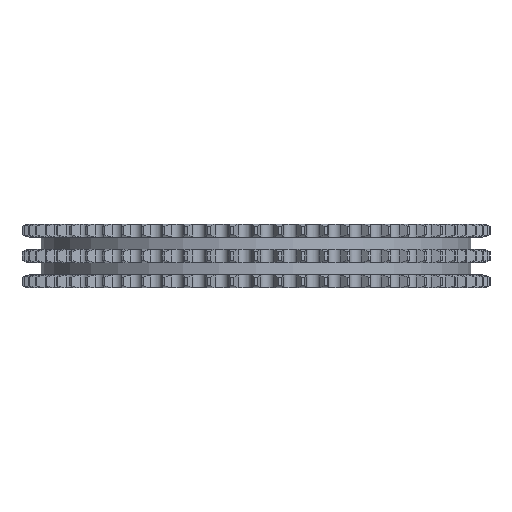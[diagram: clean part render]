
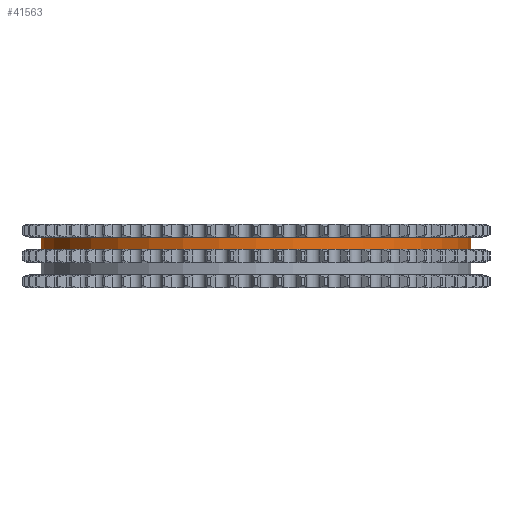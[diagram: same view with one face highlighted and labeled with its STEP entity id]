
A CAD part, left-side view. The second image highlights one B-rep face of the part: STEP entity #41563.
In plain terms, the highlighted cylindrical face has radius 117.372 mm (diameter 234.744 mm), a partial arc.
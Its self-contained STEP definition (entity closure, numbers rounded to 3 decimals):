
#7685=DIRECTION('',(0.,0.,-1.));
#7686=VECTOR('',#7685,6.65);
#7687=CARTESIAN_POINT('',(0.,117.372,10.25));
#7688=LINE('',#7687,#7686);
#7692=CARTESIAN_POINT('',(0.,0.,10.25));
#7693=DIRECTION('',(0.,0.,1.));
#7694=DIRECTION('',(0.,1.,0.));
#7695=AXIS2_PLACEMENT_3D('',#7692,#7693,#7694);
#7700=DIRECTION('',(0.,0.,-1.));
#7701=VECTOR('',#7700,6.65);
#7702=CARTESIAN_POINT('',(0.,-117.372,10.25));
#7703=LINE('',#7702,#7701);
#7707=CARTESIAN_POINT('',(0.,0.,3.6));
#7708=DIRECTION('',(0.,0.,1.));
#7709=DIRECTION('',(0.,1.,0.));
#7710=AXIS2_PLACEMENT_3D('',#7707,#7708,#7709);
#33600=CARTESIAN_POINT('',(0.,117.372,10.25));
#33601=CARTESIAN_POINT('',(0.,117.372,3.6));
#33602=VERTEX_POINT('',#33600);
#33603=VERTEX_POINT('',#33601);
#33604=CARTESIAN_POINT('',(0.,-117.372,10.25));
#33605=CARTESIAN_POINT('',(0.,-117.372,3.6));
#33606=VERTEX_POINT('',#33604);
#33607=VERTEX_POINT('',#33605);
#41551=CARTESIAN_POINT('',(0.,0.,11.275));
#41552=DIRECTION('',(0.,0.,-1.));
#41553=DIRECTION('',(0.,-1.,0.));
#41554=AXIS2_PLACEMENT_3D('',#41551,#41552,#41553);
#41555=CYLINDRICAL_SURFACE('',#41554,117.372);
#41556=ORIENTED_EDGE('',*,*,#41541,.F.);
#41557=ORIENTED_EDGE('',*,*,#41531,.T.);
#41558=ORIENTED_EDGE('',*,*,#41545,.T.);
#41560=ORIENTED_EDGE('',*,*,#41559,.F.);
#41561=EDGE_LOOP('',(#41556,#41557,#41558,#41560));
#41562=FACE_OUTER_BOUND('',#41561,.F.);
#41563=ADVANCED_FACE('',(#41562),#41555,.T.);
#7696=CIRCLE('',#7695,117.372);
#7711=CIRCLE('',#7710,117.372);
#41531=EDGE_CURVE('',#33602,#33606,#7696,.T.);
#41541=EDGE_CURVE('',#33602,#33603,#7688,.T.);
#41545=EDGE_CURVE('',#33606,#33607,#7703,.T.);
#41559=EDGE_CURVE('',#33603,#33607,#7711,.T.);
